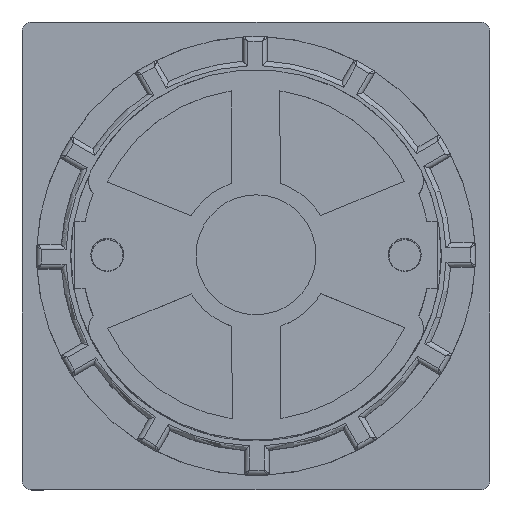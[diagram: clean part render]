
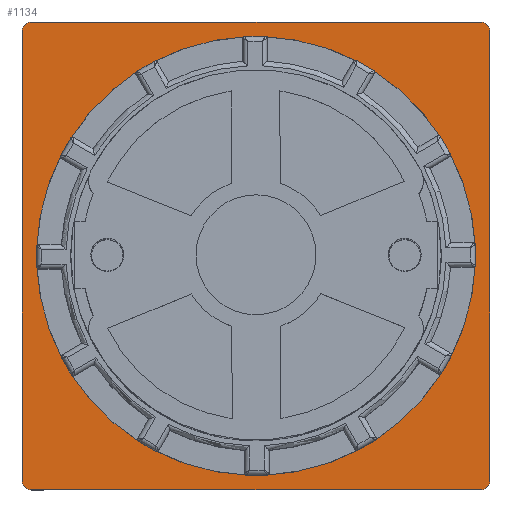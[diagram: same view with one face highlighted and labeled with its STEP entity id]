
A CAD part, top view. The second image highlights one B-rep face of the part: STEP entity #1134.
In plain terms, the highlighted planar face has unit normal (0, 0, 1).
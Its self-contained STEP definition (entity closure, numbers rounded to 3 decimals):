
#1134=ADVANCED_FACE('',(#4639,#4640),#1764,.F.);
#1764=PLANE('',#13330);
#2404=LINE('',#19481,#3510);
#2405=LINE('',#19486,#3511);
#2406=LINE('',#19490,#3512);
#2407=LINE('',#19494,#3513);
#3510=VECTOR('',#15044,1.);
#3511=VECTOR('',#15047,1.);
#3512=VECTOR('',#15050,1.);
#3513=VECTOR('',#15053,1.);
#4639=FACE_BOUND('',#5011,.T.);
#4640=FACE_BOUND('',#5012,.T.);
#5011=EDGE_LOOP('',(#6445,#6446,#6447,#6448,#6449,#6450,#6451,#6452));
#5012=EDGE_LOOP('',(#6453));
#6445=ORIENTED_EDGE('',*,*,#11094,.F.);
#6446=ORIENTED_EDGE('',*,*,#11095,.F.);
#6447=ORIENTED_EDGE('',*,*,#11096,.F.);
#6448=ORIENTED_EDGE('',*,*,#11097,.F.);
#6449=ORIENTED_EDGE('',*,*,#11098,.F.);
#6450=ORIENTED_EDGE('',*,*,#11099,.F.);
#6451=ORIENTED_EDGE('',*,*,#11100,.F.);
#6452=ORIENTED_EDGE('',*,*,#11101,.F.);
#6453=ORIENTED_EDGE('',*,*,#11056,.T.);
#9676=VERTEX_POINT('',#19386);
#9694=VERTEX_POINT('',#19482);
#9695=VERTEX_POINT('',#19483);
#9696=VERTEX_POINT('',#19485);
#9697=VERTEX_POINT('',#19487);
#9698=VERTEX_POINT('',#19489);
#9699=VERTEX_POINT('',#19491);
#9700=VERTEX_POINT('',#19493);
#9701=VERTEX_POINT('',#19495);
#11056=EDGE_CURVE('',#9676,#9676,#12650,.T.);
#11094=EDGE_CURVE('',#9694,#9695,#2404,.T.);
#11095=EDGE_CURVE('',#9696,#9694,#12680,.T.);
#11096=EDGE_CURVE('',#9697,#9696,#2405,.T.);
#11097=EDGE_CURVE('',#9698,#9697,#12681,.T.);
#11098=EDGE_CURVE('',#9699,#9698,#2406,.T.);
#11099=EDGE_CURVE('',#9700,#9699,#12682,.T.);
#11100=EDGE_CURVE('',#9701,#9700,#2407,.T.);
#11101=EDGE_CURVE('',#9695,#9701,#12683,.T.);
#12650=CIRCLE('',#13288,22.5);
#12680=CIRCLE('',#13326,1.);
#12681=CIRCLE('',#13327,1.);
#12682=CIRCLE('',#13328,1.);
#12683=CIRCLE('',#13329,1.);
#13288=AXIS2_PLACEMENT_3D('',#19385,#14960,#14961);
#13326=AXIS2_PLACEMENT_3D('',#19484,#15045,#15046);
#13327=AXIS2_PLACEMENT_3D('',#19488,#15048,#15049);
#13328=AXIS2_PLACEMENT_3D('',#19492,#15051,#15052);
#13329=AXIS2_PLACEMENT_3D('',#19496,#15054,#15055);
#13330=AXIS2_PLACEMENT_3D('',#19497,#15056,#15057);
#14960=DIRECTION('',(0.,0.,-1.));
#14961=DIRECTION('',(0.,1.,0.));
#15044=DIRECTION('',(0.,1.,0.));
#15045=DIRECTION('',(0.,0.,-1.));
#15046=DIRECTION('',(1.,0.,0.));
#15047=DIRECTION('',(-1.,0.,0.));
#15048=DIRECTION('',(0.,0.,-1.));
#15049=DIRECTION('',(1.,0.,0.));
#15050=DIRECTION('',(0.,-1.,0.));
#15051=DIRECTION('',(0.,0.,-1.));
#15052=DIRECTION('',(1.,0.,0.));
#15053=DIRECTION('',(1.,0.,0.));
#15054=DIRECTION('',(0.,0.,-1.));
#15055=DIRECTION('',(1.,0.,0.));
#15056=DIRECTION('',(0.,0.,-1.));
#15057=DIRECTION('',(-1.,0.,0.));
#19385=CARTESIAN_POINT('',(0.,0.,-18.4));
#19386=CARTESIAN_POINT('',(0.,22.5,-18.4));
#19481=CARTESIAN_POINT('',(-24.,-23.,-18.4));
#19482=CARTESIAN_POINT('',(-24.,-23.,-18.4));
#19483=CARTESIAN_POINT('',(-24.,23.,-18.4));
#19484=CARTESIAN_POINT('',(-23.,-23.,-18.4));
#19485=CARTESIAN_POINT('',(-23.,-24.,-18.4));
#19486=CARTESIAN_POINT('',(23.,-24.,-18.4));
#19487=CARTESIAN_POINT('',(23.,-24.,-18.4));
#19488=CARTESIAN_POINT('',(23.,-23.,-18.4));
#19489=CARTESIAN_POINT('',(24.,-23.,-18.4));
#19490=CARTESIAN_POINT('',(24.,23.,-18.4));
#19491=CARTESIAN_POINT('',(24.,23.,-18.4));
#19492=CARTESIAN_POINT('',(23.,23.,-18.4));
#19493=CARTESIAN_POINT('',(23.,24.,-18.4));
#19494=CARTESIAN_POINT('',(-23.,24.,-18.4));
#19495=CARTESIAN_POINT('',(-23.,24.,-18.4));
#19496=CARTESIAN_POINT('',(-23.,23.,-18.4));
#19497=CARTESIAN_POINT('',(-23.,23.,-18.4));
